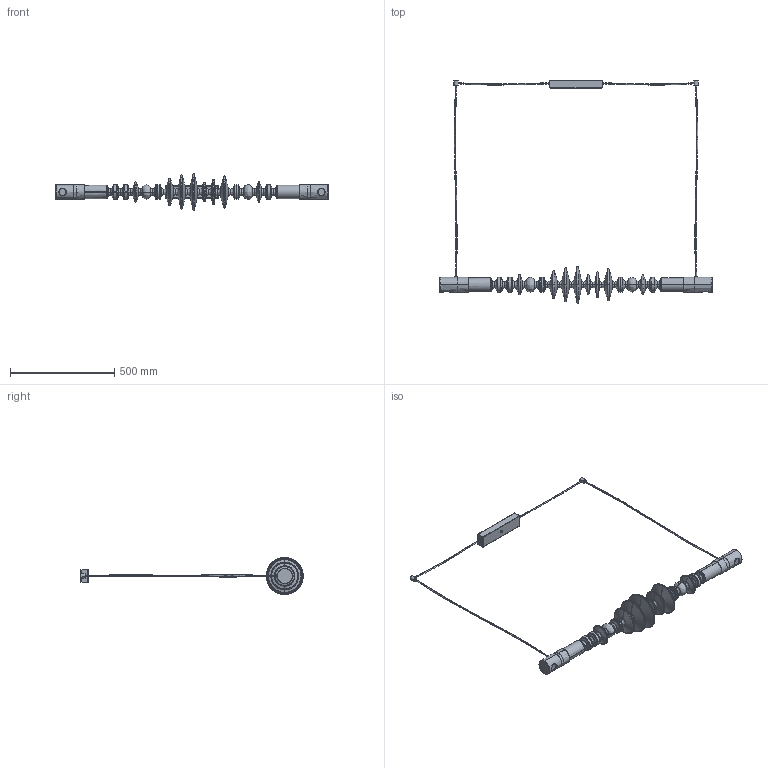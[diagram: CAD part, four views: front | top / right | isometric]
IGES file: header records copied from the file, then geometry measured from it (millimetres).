
Start section: SolidWorks IGES file using analytic representation for surfaces
Global section: file name: G:\Drive condivisi\Ufficio Tecnico\Research\X21 Filamento\Progetto\ATC-X21-S4\Architetti\ATP-X21-S400-R02 - Architetti V.IGS; native system: SolidWorks 2025; preprocessor: SolidWorks 2025; author: Tecnico01; date: 260430.110205; units: millimetre
Bounding box: 1307 x 1068 x 177 mm (x, y, z)
Surface area: 1073819.9 mm2 (no closed solid volume)
Topology: 0 solids, 0 shells, 903 faces, 11046 edges, 11040 vertices
Faces by surface type: bspline 470, revolution 433
